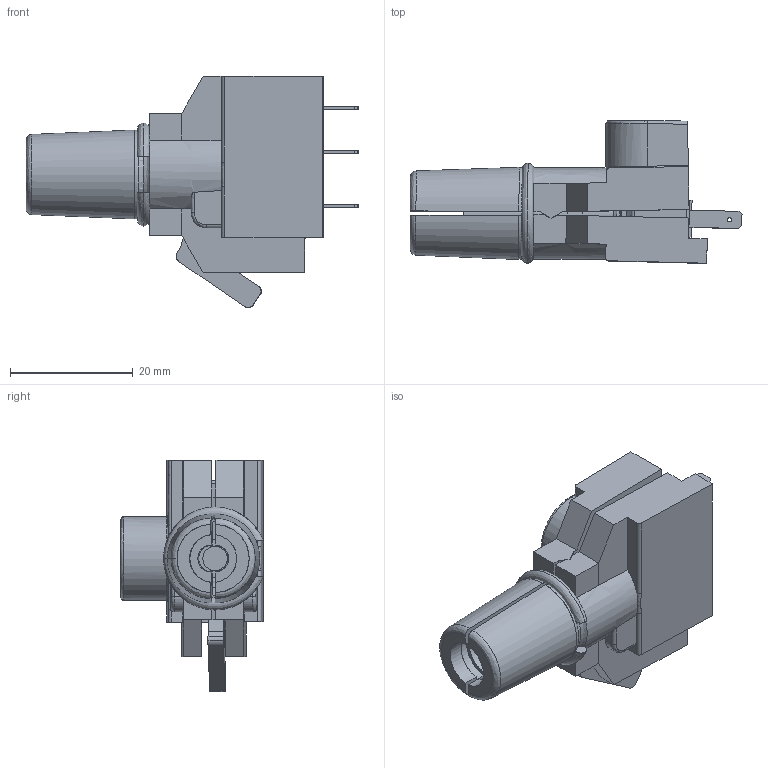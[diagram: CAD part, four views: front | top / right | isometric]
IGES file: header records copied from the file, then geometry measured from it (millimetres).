
Start section: SolidWorks IGES file using analytic representation for surfaces
Global section: file name: U:\14_RD\05_Technical_office\04_Office\Hrdinova\3D modely - IGES\Varius - Ostatní\VL41F.IGS; native system: SolidWorks 2011; preprocessor: SolidWorks 2011; author: adhrja3; date: 170621.072121; units: millimetre
Bounding box: 54.15 x 23.3 x 37.71 mm (x, y, z)
Surface area: 9294.1 mm2 (no closed solid volume)
Topology: 0 solids, 0 shells, 358 faces, 3974 edges, 3972 vertices
Faces by surface type: bspline 271, revolution 87
